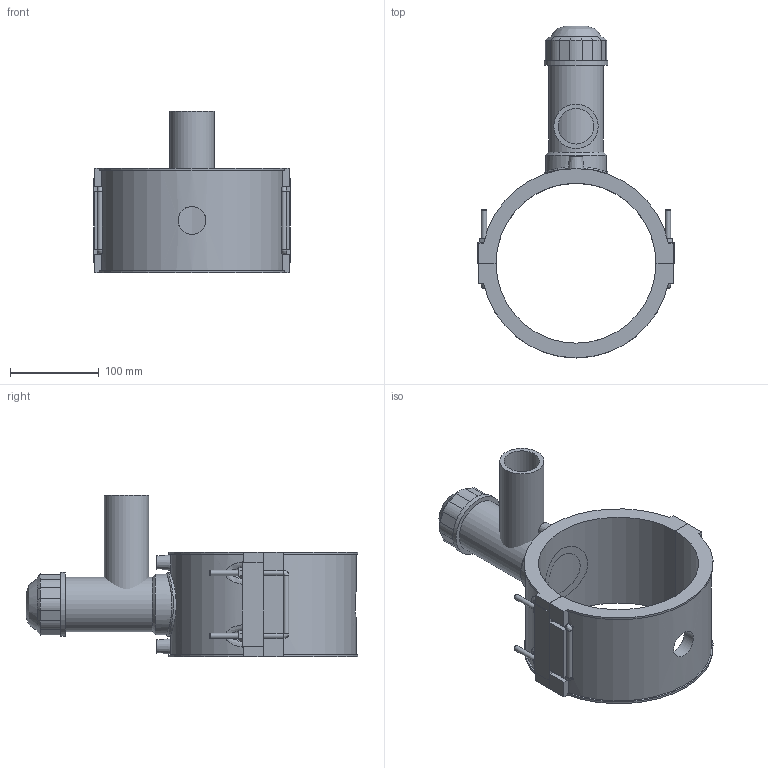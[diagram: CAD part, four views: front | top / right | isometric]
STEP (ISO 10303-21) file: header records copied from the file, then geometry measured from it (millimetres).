
FILE_DESCRIPTION(/* description */ (''),/* implementation_level */ '2;1');
FILE_NAME(/* name */ 'C:\Dropbox\KIMPROJECTS-Inventor 2019\99-16-3568-Processing\ElectroFusion Fittings\4963P4\stp\4963P4180050.stp',/* time_stamp */ '2022-03-17T11:31:11+02:00',/* author */ ('KIM'),/* organization */ (''),/* preprocessor_version */ 'ST-DEVELOPER v17.2',/* originating_system */ 'Autodesk Inventor 2019',/* authorisation */ '');
FILE_SCHEMA (('AUTOMOTIVE_DESIGN { 1 0 10303 214 3 1 1 }'));
Length unit declared in the file: millimetre
Products named in the file (1): 4963P4180050
Bounding box: 221 x 373.49 x 182 mm (x, y, z)
Volume: 1507763.5 mm3; surface area: 290939.1 mm2
Topology: 3 solids, 3 shells, 193 faces, 494 edges, 316 vertices
Faces by surface type: plane 111, cylinder 53, cone 15, bspline 14
Full cylindrical faces by diameter (mm): 4 x2, 6 x8, 10 x2, 31.36 x1, 40 x1, 50 x1, 50.4 x1, 61.2 x1, 68.4 x1, 72 x2
Entity records: 7018 total; most frequent: CARTESIAN_POINT 2359, ORIENTED_EDGE 972, DIRECTION 922, EDGE_CURVE 486, VERTEX_POINT 316, AXIS2_PLACEMENT_3D 313, LINE 296, VECTOR 296
